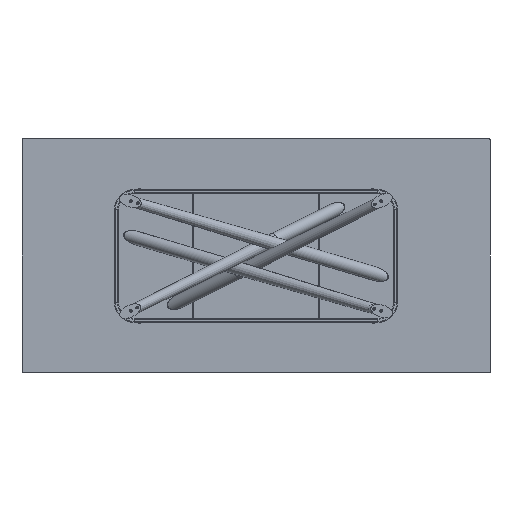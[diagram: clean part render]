
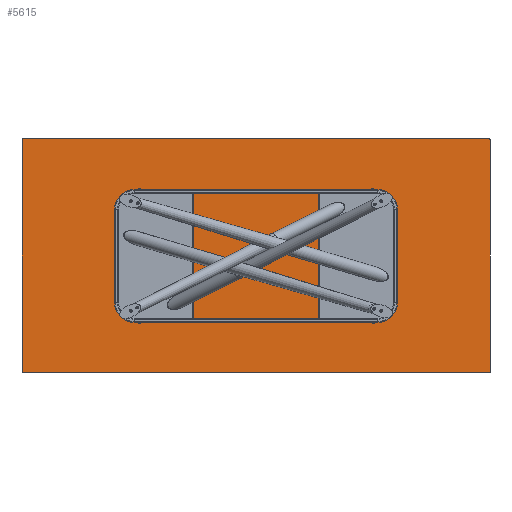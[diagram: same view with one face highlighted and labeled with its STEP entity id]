
A CAD part, front view. The second image highlights one B-rep face of the part: STEP entity #5615.
In plain terms, the highlighted planar face has unit normal (0, -1, 0).
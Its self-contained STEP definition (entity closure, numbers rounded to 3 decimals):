
#104 = CARTESIAN_POINT ( 'NONE',  ( 1200., 0., -600. ) ) ;
#179 = VERTEX_POINT ( 'NONE', #688 ) ;
#250 = VERTEX_POINT ( 'NONE', #1000 ) ;
#584 = EDGE_CURVE ( 'NONE', #4841, #2095, #5088, .T. ) ;
#688 = CARTESIAN_POINT ( 'NONE',  ( -1195., 0., -600. ) ) ;
#703 = VERTEX_POINT ( 'NONE', #9869 ) ;
#729 = AXIS2_PLACEMENT_3D ( 'NONE', #2664, #5882, #1863 ) ;
#739 = EDGE_CURVE ( 'NONE', #703, #3037, #1781, .T. ) ;
#1000 = CARTESIAN_POINT ( 'NONE',  ( 1200., 0., 595. ) ) ;
#1186 = CARTESIAN_POINT ( 'NONE',  ( -1200., 0., -595. ) ) ;
#1289 = ORIENTED_EDGE ( 'NONE', *, *, #7945, .T. ) ;
#1379 = VERTEX_POINT ( 'NONE', #1186 ) ;
#1712 = PLANE ( 'NONE',  #8489 ) ;
#1781 = LINE ( 'NONE', #6638, #5597 ) ;
#1863 = DIRECTION ( 'NONE',  ( 0., 0., 1. ) ) ;
#2095 = VERTEX_POINT ( 'NONE', #10211 ) ;
#2244 = ORIENTED_EDGE ( 'NONE', *, *, #584, .T. ) ;
#2298 = DIRECTION ( 'NONE',  ( 0., 1., 0. ) ) ;
#2348 = LINE ( 'NONE', #4773, #2411 ) ;
#2394 = CARTESIAN_POINT ( 'NONE',  ( 1195., 0., 600. ) ) ;
#2411 = VECTOR ( 'NONE', #7306, 1000. ) ;
#2468 = DIRECTION ( 'NONE',  ( 1., 0., 0. ) ) ;
#2664 = CARTESIAN_POINT ( 'NONE',  ( 1195., 0., 595. ) ) ;
#2968 = VECTOR ( 'NONE', #4163, 1000. ) ;
#3037 = VERTEX_POINT ( 'NONE', #2394 ) ;
#3962 = ORIENTED_EDGE ( 'NONE', *, *, #9951, .F. ) ;
#4120 = CARTESIAN_POINT ( 'NONE',  ( 1195., 0., -600. ) ) ;
#4163 = DIRECTION ( 'NONE',  ( 0., 0., -1. ) ) ;
#4542 = EDGE_LOOP ( 'NONE', ( #3962, #6246, #9878, #1289, #6596, #6588, #9610, #2244 ) ) ;
#4773 = CARTESIAN_POINT ( 'NONE',  ( -1200., 0., -600. ) ) ;
#4807 = CIRCLE ( 'NONE', #9883, 5. ) ;
#4841 = VERTEX_POINT ( 'NONE', #4120 ) ;
#5088 = CIRCLE ( 'NONE', #10168, 5. ) ;
#5435 = DIRECTION ( 'NONE',  ( 0., -1., 0. ) ) ;
#5481 = CARTESIAN_POINT ( 'NONE',  ( 1195., 0., -595. ) ) ;
#5569 = DIRECTION ( 'NONE',  ( 0., 0., 1. ) ) ;
#5590 = EDGE_CURVE ( 'NONE', #1379, #6494, #2348, .T. ) ;
#5597 = VECTOR ( 'NONE', #2468, 1000. ) ;
#5615 = ADVANCED_FACE ( 'NONE', ( #5728 ), #1712, .F. ) ;
#5712 = EDGE_CURVE ( 'NONE', #250, #3037, #9164, .T. ) ;
#5728 = FACE_OUTER_BOUND ( 'NONE', #4542, .T. ) ;
#5882 = DIRECTION ( 'NONE',  ( 0., -1., 0. ) ) ;
#5953 = CARTESIAN_POINT ( 'NONE',  ( -1200., 0., 595. ) ) ;
#6057 = LINE ( 'NONE', #9483, #7523 ) ;
#6246 = ORIENTED_EDGE ( 'NONE', *, *, #5712, .T. ) ;
#6402 = CARTESIAN_POINT ( 'NONE',  ( -1195., 0., 595. ) ) ;
#6494 = VERTEX_POINT ( 'NONE', #5953 ) ;
#6588 = ORIENTED_EDGE ( 'NONE', *, *, #9768, .T. ) ;
#6596 = ORIENTED_EDGE ( 'NONE', *, *, #5590, .F. ) ;
#6638 = CARTESIAN_POINT ( 'NONE',  ( -1200., 0., 600. ) ) ;
#6645 = LINE ( 'NONE', #104, #2968 ) ;
#7306 = DIRECTION ( 'NONE',  ( 0., 0., 1. ) ) ;
#7523 = VECTOR ( 'NONE', #9386, 1000. ) ;
#7863 = DIRECTION ( 'NONE',  ( 0., 0., 1. ) ) ;
#7945 = EDGE_CURVE ( 'NONE', #703, #6494, #10165, .T. ) ;
#8489 = AXIS2_PLACEMENT_3D ( 'NONE', #9540, #2298, #5569 ) ;
#8702 = EDGE_CURVE ( 'NONE', #4841, #179, #6057, .T. ) ;
#8717 = DIRECTION ( 'NONE',  ( 0., -1., 0. ) ) ;
#8774 = CARTESIAN_POINT ( 'NONE',  ( -1195., 0., -595. ) ) ;
#9164 = CIRCLE ( 'NONE', #729, 5. ) ;
#9386 = DIRECTION ( 'NONE',  ( -1., 0., 0. ) ) ;
#9480 = AXIS2_PLACEMENT_3D ( 'NONE', #6402, #9623, #9576 ) ;
#9483 = CARTESIAN_POINT ( 'NONE',  ( -1200., 0., -600. ) ) ;
#9540 = CARTESIAN_POINT ( 'NONE',  ( 0., 0., 0. ) ) ;
#9576 = DIRECTION ( 'NONE',  ( 0., 0., 1. ) ) ;
#9610 = ORIENTED_EDGE ( 'NONE', *, *, #8702, .F. ) ;
#9623 = DIRECTION ( 'NONE',  ( 0., -1., 0. ) ) ;
#9768 = EDGE_CURVE ( 'NONE', #1379, #179, #4807, .T. ) ;
#9869 = CARTESIAN_POINT ( 'NONE',  ( -1195., 0., 600. ) ) ;
#9878 = ORIENTED_EDGE ( 'NONE', *, *, #739, .F. ) ;
#9883 = AXIS2_PLACEMENT_3D ( 'NONE', #8774, #5435, #10406 ) ;
#9951 = EDGE_CURVE ( 'NONE', #250, #2095, #6645, .T. ) ;
#10165 = CIRCLE ( 'NONE', #9480, 5. ) ;
#10168 = AXIS2_PLACEMENT_3D ( 'NONE', #5481, #8717, #7863 ) ;
#10211 = CARTESIAN_POINT ( 'NONE',  ( 1200., 0., -595. ) ) ;
#10406 = DIRECTION ( 'NONE',  ( 0., 0., 1. ) ) ;
